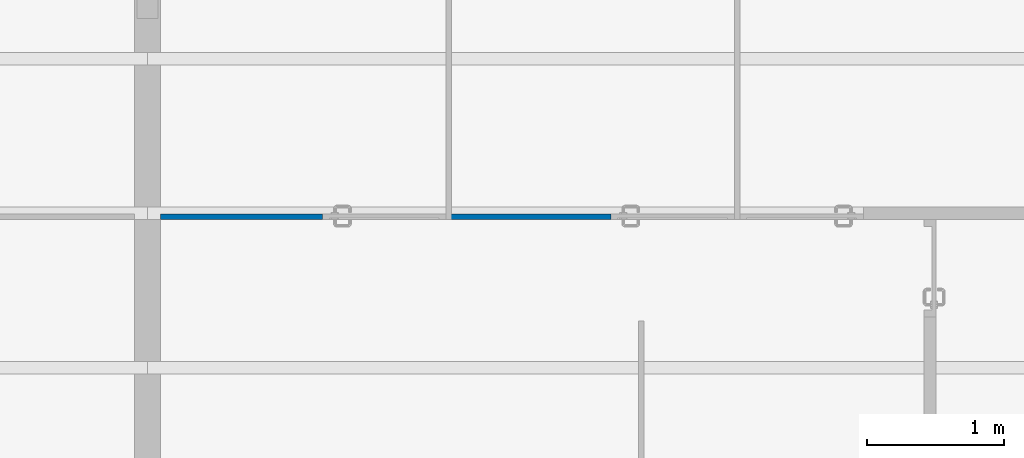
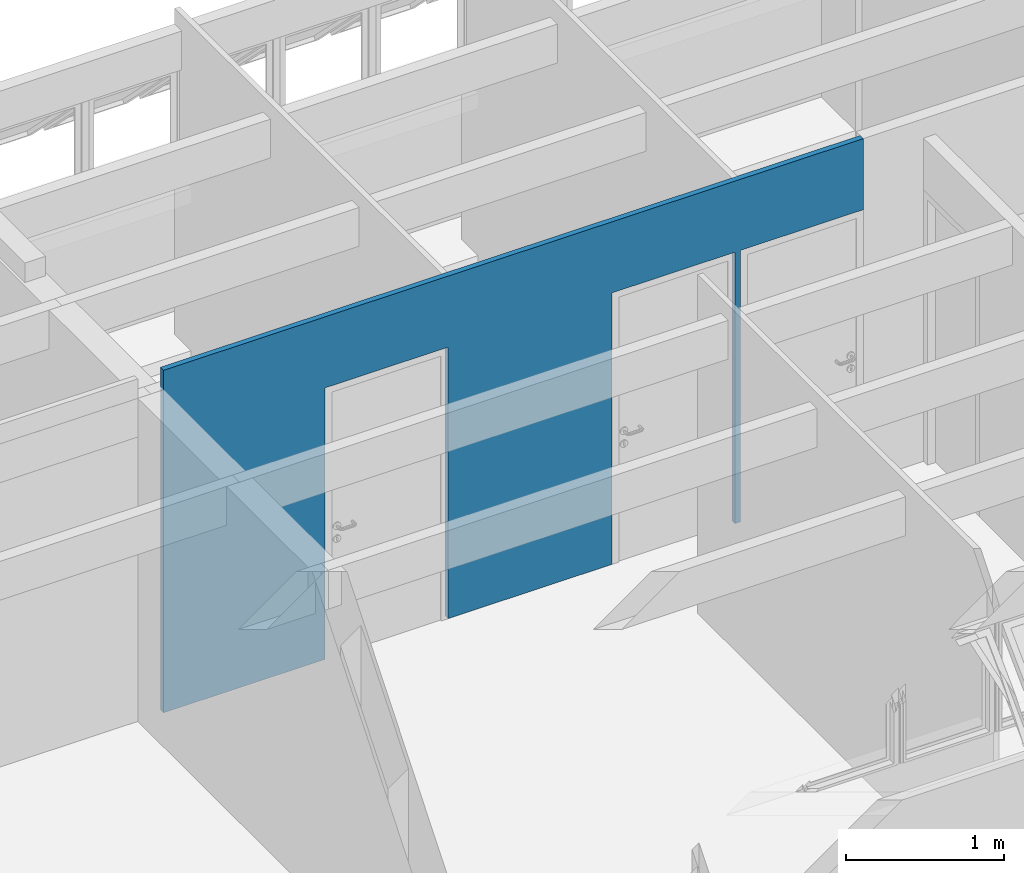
# One storey, part 24 of 38: 1 wall, 3 openings.
"""IFC2X3 building model written with IfcOpenShell, lengths in millimetres."""

from ifc_helpers import new_model, entity, si_unit, converted_unit, derived_unit, money_unit, direction, frame, origin_with_axes, origin_2d_with_axis, place, context, subcontext, project, spatial, polyline, rectangle, outline, extrude, material, layer, layer_set, layer_usage, type_object, element, save


model = new_model("IFC2X3")

# Units and contexts
model_context = context("Model", 3, precision=0.01, world=origin_with_axes(), true_north=direction((0.0, 1.0)))
body_context = subcontext(model_context, "Body", "Model", "MODEL_VIEW")
ifc_project = project(units=[si_unit("LENGTHUNIT", "METRE", prefix="MILLI"), si_unit("AREAUNIT", "SQUARE_METRE"), si_unit("VOLUMEUNIT", "CUBIC_METRE"), converted_unit("PLANEANGLEUNIT", "DEGREE", entity("IfcPlaneAngleMeasure", 0.0174532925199), si_unit("PLANEANGLEUNIT", "RADIAN"), dimensions=[0, 0, 0, 0, 0, 0, 0]), money_unit("USD"), converted_unit("TIMEUNIT", "Year", entity("IfcTimeMeasure", 31556926.0), si_unit("TIMEUNIT", "SECOND"), dimensions=[0, 0, 1, 0, 0, 0, 0]), si_unit("MASSUNIT", "GRAM", prefix="KILO"), si_unit("THERMODYNAMICTEMPERATUREUNIT", "DEGREE_CELSIUS"), si_unit("LUMINOUSINTENSITYUNIT", "LUMEN"), si_unit("ENERGYUNIT", "JOULE", prefix="MEGA"), derived_unit("THERMALCONDUCTANCEUNIT", [(si_unit("POWERUNIT", "WATT"), 1), (si_unit("LENGTHUNIT", "METRE"), -1), (si_unit("THERMODYNAMICTEMPERATUREUNIT", "KELVIN"), -1)]), derived_unit("SPECIFICHEATCAPACITYUNIT", [(si_unit("ENERGYUNIT", "JOULE"), 1), (si_unit("MASSUNIT", "GRAM", prefix="KILO"), -1), (si_unit("THERMODYNAMICTEMPERATUREUNIT", "KELVIN"), -1)]), derived_unit("MASSDENSITYUNIT", [(si_unit("MASSUNIT", "GRAM", prefix="KILO"), 1), (si_unit("VOLUMEUNIT", "CUBIC_METRE"), -1)])], contexts=[model_context])

# Site, building, storey
site_placement = place(None, origin_with_axes())
site = spatial("IfcSite", under=ifc_project, at=site_placement, Name="Local", CompositionType="ELEMENT")
building_placement = place(site_placement, origin_with_axes())
building = spatial("IfcBuilding", under=site, at=building_placement, Name="Construção", CompositionType="ELEMENT")
storey_placement = place(building_placement, frame((0.0, 0.0, 2650.0), z_axis=(0.0, 0.0, 1.0), x_axis=(1.0, 0.0, 0.0)))
storey = spatial("IfcBuildingStorey", under=building, at=storey_placement, Name="Segundo Pavimento", CompositionType="ELEMENT", Elevation=2650.0)

# Wall, openings
ifc_material = material(Name="GENÉRICO - VEDAÇÃO EXTERNA")
ifc_layer = layer(ifc_material, 40.0, ventilated="UNKNOWN")
ifc_layer_set = layer_set([ifc_layer], Name="GENÉRICO - VEDAÇÃO EXTERNA 40")
ifc_layer_usage = layer_usage(ifc_layer_set, "AXIS2", "NEGATIVE", 0.0)
wall_type = type_object("IfcWallType", Name="GENÉRICO - VEDAÇÃO EXTERNA 40", PredefinedType="NOTDEFINED")
wall_placement = place(storey_placement, frame((12600.0, 22394.7804333, 0.0), z_axis=(0.0, 0.0, 1.0), x_axis=(-0.99999999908, 4.28841203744e-05, 0.0)))
wall = element("IfcWallStandardCase", 1, at=wall_placement, inside=storey, type_object=wall_type, material=ifc_layer_usage, Name="APTO8-PAREDE-006", context=body_context, shape_type="SweptSolid", body=[
    extrude(outline(polyline([(0.00085768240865, -40.0), (5120.00172007, -40.0), (5120.00000471, 0.0), (0.0, 0.0), (0.00085768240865, -40.0)])), origin_with_axes(), (0.0, 0.0, 1.0), 2650.0),
])
opening_1_placement = place(wall_placement, frame((1390.00000471, 0.0, 0.0), z_axis=(0.0, 0.0, 1.0), x_axis=(1.0, 0.0, 0.0)))
element("IfcOpeningElement", 2, at=opening_1_placement, cuts=wall, Name="APTO8-PORTA-002", context=body_context, shape_type="SweptSolid", body=[
    extrude(rectangle(XDim=900.0, YDim=2100.0, at=origin_2d_with_axis()), frame((0.0, -40.0, 1050.0), z_axis=(0.0, 1.0, 0.0), x_axis=(-1.0, 0.0, 0.0)), (0.0, 0.0, 1.0), 120.0),
])
opening_2_placement = place(wall_placement, frame((450.000004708, 0.0, 0.0), z_axis=(0.0, 0.0, 1.0), x_axis=(1.0, 0.0, 0.0)))
element("IfcOpeningElement", 3, at=opening_2_placement, cuts=wall, Name="APTO8-PORTA-001", context=body_context, shape_type="SweptSolid", body=[
    extrude(rectangle(XDim=900.0, YDim=2100.0, at=origin_2d_with_axis()), frame((0.0, -40.0, 1050.0), z_axis=(0.0, -1.0, 0.0), x_axis=(1.0, 0.0, 0.0)), (0.0, 0.0, -1.0), 120.0),
])
opening_3_placement = place(wall_placement, frame((3490.00000471, 0.0, 0.0), z_axis=(0.0, 0.0, 1.0), x_axis=(1.0, 0.0, 0.0)))
element("IfcOpeningElement", 4, at=opening_3_placement, cuts=wall, Name="APTO8-PORTA-000", context=body_context, shape_type="SweptSolid", body=[
    extrude(rectangle(XDim=900.0, YDim=2100.0, at=origin_2d_with_axis()), frame((0.0, -40.0, 1050.0), z_axis=(0.0, 1.0, 0.0), x_axis=(-1.0, 0.0, 0.0)), (0.0, 0.0, 1.0), 120.0),
])

save(model, "model.ifc")
